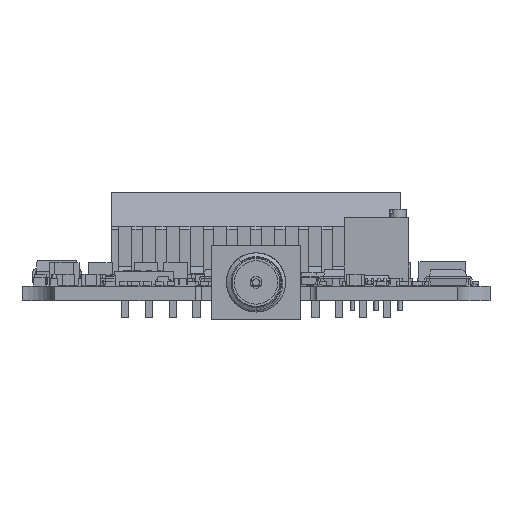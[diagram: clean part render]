
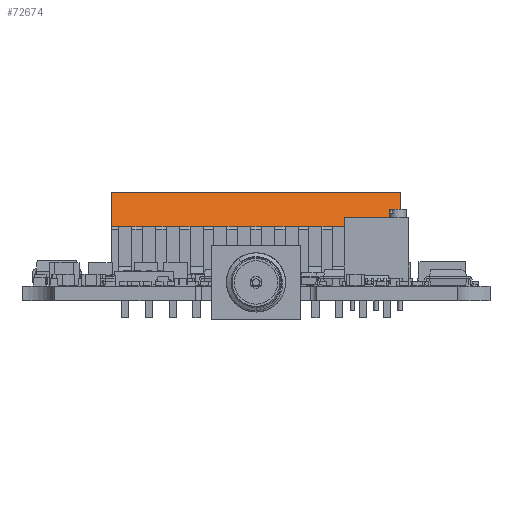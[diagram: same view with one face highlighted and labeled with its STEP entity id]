
A CAD part, left-side view. The second image highlights one B-rep face of the part: STEP entity #72674.
In plain terms, the highlighted planar face has unit normal (-0.965, 0, 0.264) as drawn and (0, 0.964, 0.264) by its records, which use the part's own axes.
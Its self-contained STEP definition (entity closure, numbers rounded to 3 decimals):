
#70126 = VERTEX_POINT('',#70127);
#70127 = CARTESIAN_POINT('',(15.47,2.15,-3.65));
#70133 = EDGE_CURVE('',#70134,#70126,#70136,.T.);
#70134 = VERTEX_POINT('',#70135);
#70135 = CARTESIAN_POINT('',(15.47,1.15,0.));
#70136 = LINE('',#70137,#70138);
#70137 = CARTESIAN_POINT('',(15.47,1.15,0.));
#70138 = VECTOR('',#70139,1.);
#70139 = DIRECTION('',(0.,0.264,-0.964));
#70879 = EDGE_CURVE('',#70134,#70880,#70882,.T.);
#70880 = VERTEX_POINT('',#70881);
#70881 = CARTESIAN_POINT('',(-15.47,1.15,0.));
#70882 = LINE('',#70883,#70884);
#70883 = CARTESIAN_POINT('',(15.47,1.15,0.));
#70884 = VECTOR('',#70885,1.);
#70885 = DIRECTION('',(-1.,0.,0.));
#72585 = VERTEX_POINT('',#72586);
#72586 = CARTESIAN_POINT('',(13.27,2.15,-3.65));
#72648 = VERTEX_POINT('',#72649);
#72649 = CARTESIAN_POINT('',(14.67,2.15,-3.65));
#72664 = EDGE_CURVE('',#72648,#72585,#72665,.T.);
#72665 = LINE('',#72666,#72667);
#72666 = CARTESIAN_POINT('',(14.67,2.15,-3.65
    ));
#72667 = VECTOR('',#72668,1.);
#72668 = DIRECTION('',(-1.,0.,0.));
#72674 = ADVANCED_FACE('',(#72675),#72876,.T.);
#72675 = FACE_BOUND('',#72676,.T.);
#72676 = EDGE_LOOP('',(#72677,#72685,#72693,#72701,#72709,#72717,#72725,
    #72733,#72741,#72749,#72757,#72765,#72773,#72781,#72789,#72797,
    #72805,#72813,#72821,#72829,#72837,#72845,#72853,#72861,#72867,
    #72868,#72869,#72875));
#72677 = ORIENTED_EDGE('',*,*,#72678,.T.);
#72678 = EDGE_CURVE('',#72585,#72679,#72681,.T.);
#72679 = VERTEX_POINT('',#72680);
#72680 = CARTESIAN_POINT('',(12.13,2.15,-3.65));
#72681 = LINE('',#72682,#72683);
#72682 = CARTESIAN_POINT('',(13.27,2.15,-3.65
    ));
#72683 = VECTOR('',#72684,1.);
#72684 = DIRECTION('',(-1.,0.,0.));
#72685 = ORIENTED_EDGE('',*,*,#72686,.T.);
#72686 = EDGE_CURVE('',#72679,#72687,#72689,.T.);
#72687 = VERTEX_POINT('',#72688);
#72688 = CARTESIAN_POINT('',(10.73,2.15,-3.65));
#72689 = LINE('',#72690,#72691);
#72690 = CARTESIAN_POINT('',(12.13,2.15,-3.65
    ));
#72691 = VECTOR('',#72692,1.);
#72692 = DIRECTION('',(-1.,0.,0.));
#72693 = ORIENTED_EDGE('',*,*,#72694,.T.);
#72694 = EDGE_CURVE('',#72687,#72695,#72697,.T.);
#72695 = VERTEX_POINT('',#72696);
#72696 = CARTESIAN_POINT('',(9.59,2.15,-3.65));
#72697 = LINE('',#72698,#72699);
#72698 = CARTESIAN_POINT('',(10.73,2.15,-3.65
    ));
#72699 = VECTOR('',#72700,1.);
#72700 = DIRECTION('',(-1.,0.,0.));
#72701 = ORIENTED_EDGE('',*,*,#72702,.T.);
#72702 = EDGE_CURVE('',#72695,#72703,#72705,.T.);
#72703 = VERTEX_POINT('',#72704);
#72704 = CARTESIAN_POINT('',(8.19,2.15,-3.65));
#72705 = LINE('',#72706,#72707);
#72706 = CARTESIAN_POINT('',(9.59,2.15,-3.65)
  );
#72707 = VECTOR('',#72708,1.);
#72708 = DIRECTION('',(-1.,0.,0.));
#72709 = ORIENTED_EDGE('',*,*,#72710,.T.);
#72710 = EDGE_CURVE('',#72703,#72711,#72713,.T.);
#72711 = VERTEX_POINT('',#72712);
#72712 = CARTESIAN_POINT('',(7.05,2.15,-3.65));
#72713 = LINE('',#72714,#72715);
#72714 = CARTESIAN_POINT('',(8.19,2.15,-3.65)
  );
#72715 = VECTOR('',#72716,1.);
#72716 = DIRECTION('',(-1.,0.,0.));
#72717 = ORIENTED_EDGE('',*,*,#72718,.T.);
#72718 = EDGE_CURVE('',#72711,#72719,#72721,.T.);
#72719 = VERTEX_POINT('',#72720);
#72720 = CARTESIAN_POINT('',(5.65,2.15,-3.65));
#72721 = LINE('',#72722,#72723);
#72722 = CARTESIAN_POINT('',(7.05,2.15,-3.65)
  );
#72723 = VECTOR('',#72724,1.);
#72724 = DIRECTION('',(-1.,0.,0.));
#72725 = ORIENTED_EDGE('',*,*,#72726,.T.);
#72726 = EDGE_CURVE('',#72719,#72727,#72729,.T.);
#72727 = VERTEX_POINT('',#72728);
#72728 = CARTESIAN_POINT('',(4.51,2.15,-3.65));
#72729 = LINE('',#72730,#72731);
#72730 = CARTESIAN_POINT('',(5.65,2.15,-3.65)
  );
#72731 = VECTOR('',#72732,1.);
#72732 = DIRECTION('',(-1.,0.,0.));
#72733 = ORIENTED_EDGE('',*,*,#72734,.T.);
#72734 = EDGE_CURVE('',#72727,#72735,#72737,.T.);
#72735 = VERTEX_POINT('',#72736);
#72736 = CARTESIAN_POINT('',(3.11,2.15,-3.65));
#72737 = LINE('',#72738,#72739);
#72738 = CARTESIAN_POINT('',(4.51,2.15,-3.65)
  );
#72739 = VECTOR('',#72740,1.);
#72740 = DIRECTION('',(-1.,0.,0.));
#72741 = ORIENTED_EDGE('',*,*,#72742,.T.);
#72742 = EDGE_CURVE('',#72735,#72743,#72745,.T.);
#72743 = VERTEX_POINT('',#72744);
#72744 = CARTESIAN_POINT('',(1.97,2.15,-3.65));
#72745 = LINE('',#72746,#72747);
#72746 = CARTESIAN_POINT('',(3.11,2.15,-3.65)
  );
#72747 = VECTOR('',#72748,1.);
#72748 = DIRECTION('',(-1.,0.,0.));
#72749 = ORIENTED_EDGE('',*,*,#72750,.T.);
#72750 = EDGE_CURVE('',#72743,#72751,#72753,.T.);
#72751 = VERTEX_POINT('',#72752);
#72752 = CARTESIAN_POINT('',(0.57,2.15,-3.65));
#72753 = LINE('',#72754,#72755);
#72754 = CARTESIAN_POINT('',(1.97,2.15,-3.65)
  );
#72755 = VECTOR('',#72756,1.);
#72756 = DIRECTION('',(-1.,0.,0.));
#72757 = ORIENTED_EDGE('',*,*,#72758,.T.);
#72758 = EDGE_CURVE('',#72751,#72759,#72761,.T.);
#72759 = VERTEX_POINT('',#72760);
#72760 = CARTESIAN_POINT('',(-0.57,2.15,-3.65));
#72761 = LINE('',#72762,#72763);
#72762 = CARTESIAN_POINT('',(0.57,2.15,-3.65)
  );
#72763 = VECTOR('',#72764,1.);
#72764 = DIRECTION('',(-1.,0.,0.));
#72765 = ORIENTED_EDGE('',*,*,#72766,.T.);
#72766 = EDGE_CURVE('',#72759,#72767,#72769,.T.);
#72767 = VERTEX_POINT('',#72768);
#72768 = CARTESIAN_POINT('',(-1.97,2.15,-3.65));
#72769 = LINE('',#72770,#72771);
#72770 = CARTESIAN_POINT('',(-0.57,2.15,-3.65
    ));
#72771 = VECTOR('',#72772,1.);
#72772 = DIRECTION('',(-1.,0.,0.));
#72773 = ORIENTED_EDGE('',*,*,#72774,.T.);
#72774 = EDGE_CURVE('',#72767,#72775,#72777,.T.);
#72775 = VERTEX_POINT('',#72776);
#72776 = CARTESIAN_POINT('',(-3.11,2.15,-3.65));
#72777 = LINE('',#72778,#72779);
#72778 = CARTESIAN_POINT('',(-1.97,2.15,-3.65
    ));
#72779 = VECTOR('',#72780,1.);
#72780 = DIRECTION('',(-1.,0.,0.));
#72781 = ORIENTED_EDGE('',*,*,#72782,.T.);
#72782 = EDGE_CURVE('',#72775,#72783,#72785,.T.);
#72783 = VERTEX_POINT('',#72784);
#72784 = CARTESIAN_POINT('',(-4.51,2.15,-3.65));
#72785 = LINE('',#72786,#72787);
#72786 = CARTESIAN_POINT('',(-3.11,2.15,-3.65
    ));
#72787 = VECTOR('',#72788,1.);
#72788 = DIRECTION('',(-1.,0.,0.));
#72789 = ORIENTED_EDGE('',*,*,#72790,.T.);
#72790 = EDGE_CURVE('',#72783,#72791,#72793,.T.);
#72791 = VERTEX_POINT('',#72792);
#72792 = CARTESIAN_POINT('',(-5.65,2.15,-3.65));
#72793 = LINE('',#72794,#72795);
#72794 = CARTESIAN_POINT('',(-4.51,2.15,-3.65
    ));
#72795 = VECTOR('',#72796,1.);
#72796 = DIRECTION('',(-1.,0.,0.));
#72797 = ORIENTED_EDGE('',*,*,#72798,.T.);
#72798 = EDGE_CURVE('',#72791,#72799,#72801,.T.);
#72799 = VERTEX_POINT('',#72800);
#72800 = CARTESIAN_POINT('',(-7.05,2.15,-3.65));
#72801 = LINE('',#72802,#72803);
#72802 = CARTESIAN_POINT('',(-5.65,2.15,-3.65
    ));
#72803 = VECTOR('',#72804,1.);
#72804 = DIRECTION('',(-1.,0.,0.));
#72805 = ORIENTED_EDGE('',*,*,#72806,.T.);
#72806 = EDGE_CURVE('',#72799,#72807,#72809,.T.);
#72807 = VERTEX_POINT('',#72808);
#72808 = CARTESIAN_POINT('',(-8.19,2.15,-3.65));
#72809 = LINE('',#72810,#72811);
#72810 = CARTESIAN_POINT('',(-7.05,2.15,-3.65
    ));
#72811 = VECTOR('',#72812,1.);
#72812 = DIRECTION('',(-1.,0.,0.));
#72813 = ORIENTED_EDGE('',*,*,#72814,.T.);
#72814 = EDGE_CURVE('',#72807,#72815,#72817,.T.);
#72815 = VERTEX_POINT('',#72816);
#72816 = CARTESIAN_POINT('',(-9.59,2.15,-3.65));
#72817 = LINE('',#72818,#72819);
#72818 = CARTESIAN_POINT('',(-8.19,2.15,-3.65
    ));
#72819 = VECTOR('',#72820,1.);
#72820 = DIRECTION('',(-1.,0.,0.));
#72821 = ORIENTED_EDGE('',*,*,#72822,.T.);
#72822 = EDGE_CURVE('',#72815,#72823,#72825,.T.);
#72823 = VERTEX_POINT('',#72824);
#72824 = CARTESIAN_POINT('',(-10.73,2.15,-3.65));
#72825 = LINE('',#72826,#72827);
#72826 = CARTESIAN_POINT('',(-9.59,2.15,-3.65
    ));
#72827 = VECTOR('',#72828,1.);
#72828 = DIRECTION('',(-1.,0.,0.));
#72829 = ORIENTED_EDGE('',*,*,#72830,.T.);
#72830 = EDGE_CURVE('',#72823,#72831,#72833,.T.);
#72831 = VERTEX_POINT('',#72832);
#72832 = CARTESIAN_POINT('',(-12.13,2.15,-3.65));
#72833 = LINE('',#72834,#72835);
#72834 = CARTESIAN_POINT('',(-10.73,2.15,
    -3.65));
#72835 = VECTOR('',#72836,1.);
#72836 = DIRECTION('',(-1.,0.,0.));
#72837 = ORIENTED_EDGE('',*,*,#72838,.T.);
#72838 = EDGE_CURVE('',#72831,#72839,#72841,.T.);
#72839 = VERTEX_POINT('',#72840);
#72840 = CARTESIAN_POINT('',(-13.27,2.15,-3.65));
#72841 = LINE('',#72842,#72843);
#72842 = CARTESIAN_POINT('',(-12.13,2.15,
    -3.65));
#72843 = VECTOR('',#72844,1.);
#72844 = DIRECTION('',(-1.,0.,0.));
#72845 = ORIENTED_EDGE('',*,*,#72846,.T.);
#72846 = EDGE_CURVE('',#72839,#72847,#72849,.T.);
#72847 = VERTEX_POINT('',#72848);
#72848 = CARTESIAN_POINT('',(-14.67,2.15,-3.65));
#72849 = LINE('',#72850,#72851);
#72850 = CARTESIAN_POINT('',(-13.27,2.15,
    -3.65));
#72851 = VECTOR('',#72852,1.);
#72852 = DIRECTION('',(-1.,0.,0.));
#72853 = ORIENTED_EDGE('',*,*,#72854,.T.);
#72854 = EDGE_CURVE('',#72847,#72855,#72857,.T.);
#72855 = VERTEX_POINT('',#72856);
#72856 = CARTESIAN_POINT('',(-15.47,2.15,-3.65));
#72857 = LINE('',#72858,#72859);
#72858 = CARTESIAN_POINT('',(-14.67,2.15,
    -3.65));
#72859 = VECTOR('',#72860,1.);
#72860 = DIRECTION('',(-1.,0.,0.));
#72861 = ORIENTED_EDGE('',*,*,#72862,.F.);
#72862 = EDGE_CURVE('',#70880,#72855,#72863,.T.);
#72863 = LINE('',#72864,#72865);
#72864 = CARTESIAN_POINT('',(-15.47,1.15,0.));
#72865 = VECTOR('',#72866,1.);
#72866 = DIRECTION('',(0.,0.264,-0.964));
#72867 = ORIENTED_EDGE('',*,*,#70879,.F.);
#72868 = ORIENTED_EDGE('',*,*,#70133,.T.);
#72869 = ORIENTED_EDGE('',*,*,#72870,.T.);
#72870 = EDGE_CURVE('',#70126,#72648,#72871,.T.);
#72871 = LINE('',#72872,#72873);
#72872 = CARTESIAN_POINT('',(15.47,2.15,-3.65
    ));
#72873 = VECTOR('',#72874,1.);
#72874 = DIRECTION('',(-1.,0.,0.));
#72875 = ORIENTED_EDGE('',*,*,#72664,.T.);
#72876 = PLANE('',#72877);
#72877 = AXIS2_PLACEMENT_3D('',#72878,#72879,#72880);
#72878 = CARTESIAN_POINT('',(15.47,1.15,0.));
#72879 = DIRECTION('',(0.,0.964,0.264));
#72880 = DIRECTION('',(1.,0.,0.));
